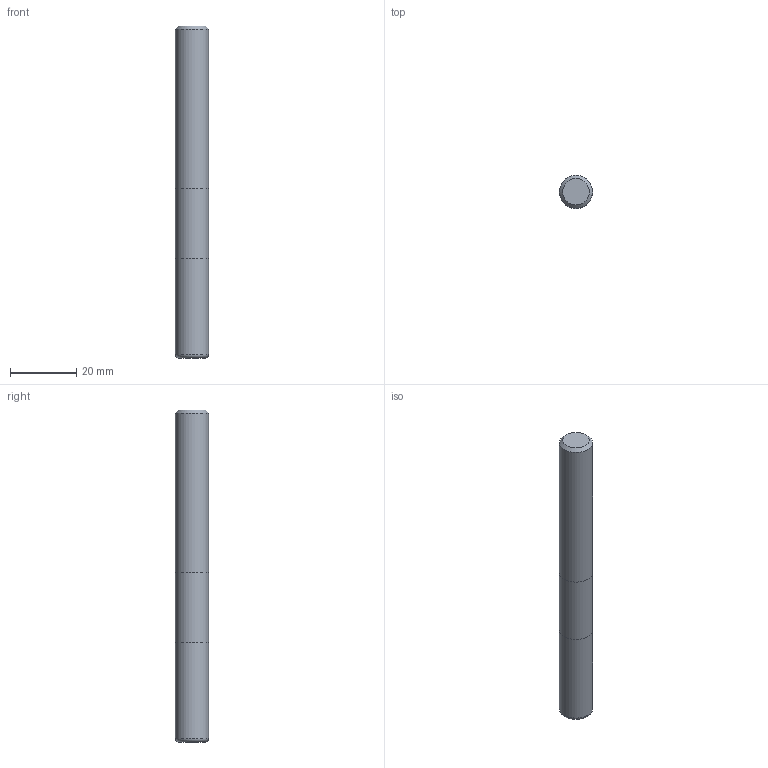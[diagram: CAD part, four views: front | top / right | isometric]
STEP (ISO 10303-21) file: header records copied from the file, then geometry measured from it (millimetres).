
FILE_DESCRIPTION((''),'2;1');
FILE_NAME('C:\Users\nsx150\AppData\Local\Temp\Mastercam 2021\03UJLO2QV3\TEMP.step','2023-09-20T09:30:08',(''),(''),'STEP Write','Mastercam 2021 ... CNC Software, Inc.','');
FILE_SCHEMA(('AUTOMOTIVE_DESIGN'));
Length unit declared in the file: millimetre
Products named in the file (1): None
Bounding box: 10 x 10 x 100 mm (x, y, z)
Volume: 7832.9 mm3; surface area: 3422.1 mm2
Topology: 2 solids, 2 shells, 9 faces, 12 edges, 7 vertices
Faces by surface type: plane 4, cylinder 3, torus 1, cone 1
Full cylindrical faces by diameter (mm): 10 x3
Entity records: 211 total; most frequent: DIRECTION 36, CARTESIAN_POINT 25, AXIS2_PLACEMENT_3D 18, ORIENTED_EDGE 14, EDGE_LOOP 14, STYLED_ITEM 12, ADVANCED_FACE 9, FACE_BOUND 9
